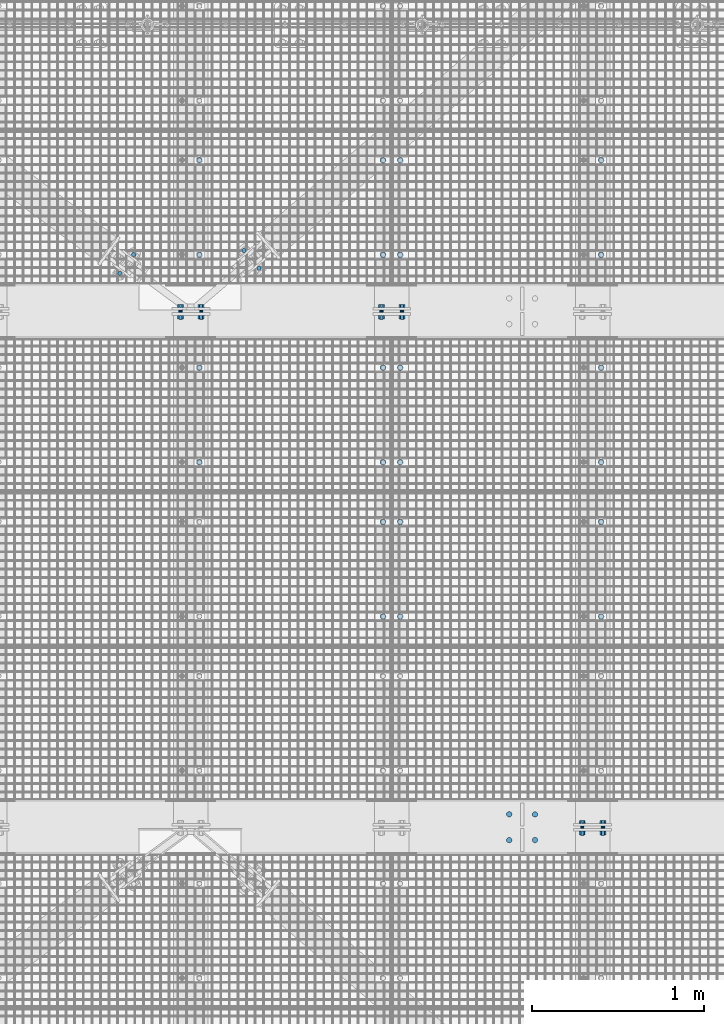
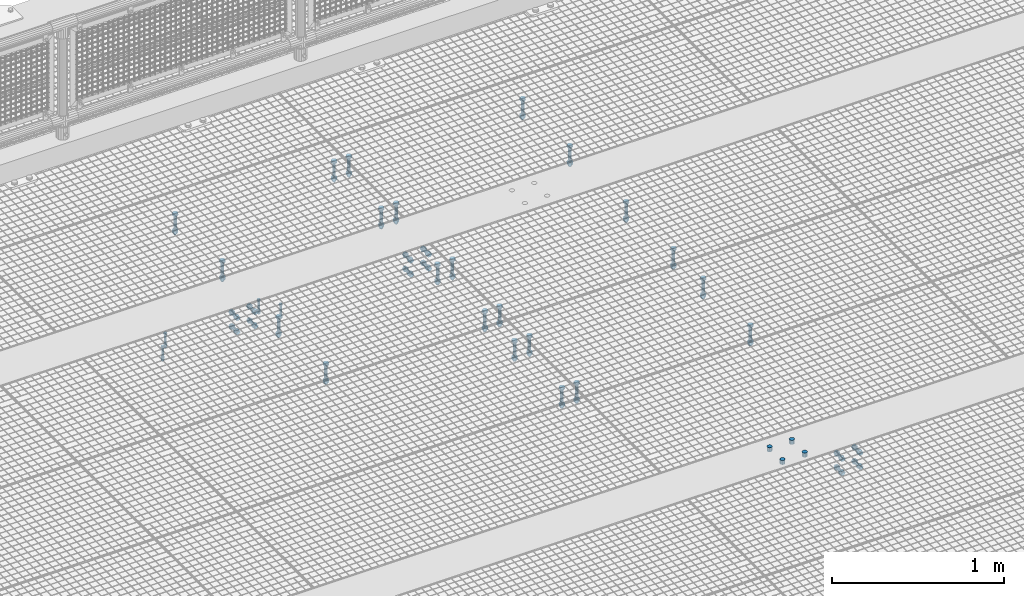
# One storey, part 15 of 1530: 17 mechanical fasteners.
"""IFC2X3 building model written with IfcOpenShell, lengths in millimetres."""

from ifc_helpers import new_model, si_unit, frame, origin_with_axes, place, context, subcontext, project, spatial, faceted_brep, source, transform, mapped, material, type_object, element, save


model = new_model("IFC2X3")

# Units and contexts
model_context = context("Model", 3, precision=1e-05, world=origin_with_axes())
body_context = subcontext(model_context, "Body", "Model", "MODEL_VIEW")
ifc_project = project(units=[si_unit("LENGTHUNIT", "METRE", prefix="MILLI"), si_unit("AREAUNIT", "SQUARE_METRE"), si_unit("VOLUMEUNIT", "CUBIC_METRE"), si_unit("MASSUNIT", "GRAM", prefix="KILO"), si_unit("TIMEUNIT", "SECOND"), si_unit("PLANEANGLEUNIT", "RADIAN"), si_unit("SOLIDANGLEUNIT", "STERADIAN"), si_unit("THERMODYNAMICTEMPERATUREUNIT", "DEGREE_CELSIUS"), si_unit("LUMINOUSINTENSITYUNIT", "LUMEN")], contexts=[model_context])

# Site, building, storey
site_placement = place(None, origin_with_axes())
site = spatial("IfcSite", under=ifc_project, at=site_placement, Name="Brattvåg", CompositionType="ELEMENT")
building_placement = place(site_placement, origin_with_axes())
building = spatial("IfcBuilding", under=site, at=building_placement, Name="Undefined", CompositionType="ELEMENT")
storey_placement = place(building_placement, origin_with_axes())
storey = spatial("IfcBuildingStorey", under=building, at=storey_placement, Name="Undefined", CompositionType="ELEMENT", Elevation=0.0)

# Mechanical fasteners
ifc_material = material(Name="8")
mechanical_fastener_type = type_object("IfcMechanicalFastenerType", Name="Bolt assembly")
shared_shape_1 = source(origin_with_axes(), body_context, "Body", "Brep", [
    faceted_brep([(10.3923048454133, -9.99999999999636, 0.0), (5.19615242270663, -9.99999999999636, 9.0), (-5.19615242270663, -9.99999999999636, 9.0), (-10.3923048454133, -9.99999999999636, 1.27269028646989e-15), (-5.19615242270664, -9.99999999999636, -9.0), (5.19615242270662, -9.99999999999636, -9.0), (5.19615242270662, -2.49999999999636, -9.0), (-5.19615242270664, -2.49999999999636, -9.0), (-10.3923048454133, -2.49999999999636, 1.27269028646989e-15), (-5.19615242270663, -2.49999999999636, 9.0), (5.19615242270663, -2.49999999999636, 9.0), (10.3923048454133, -2.49999999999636, 0.0), (6.0, -2.49999999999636, 0.0), (5.19615242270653, -2.49999999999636, 3.00000000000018), (2.99999999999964, -2.49999999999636, 5.19615242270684), (-6.21801588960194e-13, -2.49999999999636, 6.0), (-3.00000000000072, -2.49999999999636, 5.19615242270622), (-5.19615242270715, -2.49999999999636, 2.9999999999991), (-6.0, -2.49999999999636, -1.24360317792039e-12), (-5.19615242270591, -2.49999999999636, -3.00000000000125), (-2.99999999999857, -2.49999999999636, -5.19615242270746), (1.85874342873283e-12, -2.49999999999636, -6.0), (3.00000000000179, -2.49999999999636, -5.1961524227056), (5.19615242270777, -2.49999999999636, -2.99999999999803), (5.19615242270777, 97.4999999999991, -2.99999999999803), (3.00000000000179, 97.4999999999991, -5.1961524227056), (1.85874342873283e-12, 97.4999999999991, -6.0), (-2.99999999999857, 97.4999999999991, -5.19615242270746), (-5.19615242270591, 97.4999999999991, -3.00000000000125), (-6.0, 97.4999999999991, -1.24360317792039e-12), (-5.19615242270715, 97.4999999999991, 2.9999999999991), (-3.00000000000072, 97.4999999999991, 5.19615242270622), (-6.21801588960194e-13, 97.4999999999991, 6.0), (2.99999999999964, 97.4999999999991, 5.19615242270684), (5.19615242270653, 97.4999999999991, 3.00000000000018), (6.0, 97.4999999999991, 0.0), (12.0, -2.49999999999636, 0.0), (10.3923048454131, -2.49999999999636, 6.00000000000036), (5.99999999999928, -2.49999999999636, 10.3923048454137), (-1.24360317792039e-12, -2.49999999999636, 12.0), (-6.00000000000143, -2.49999999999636, 10.3923048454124), (-10.3923048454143, -2.49999999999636, 5.99999999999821), (-12.0, -2.49999999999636, -2.48720635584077e-12), (-10.3923048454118, -2.49999999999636, -6.00000000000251), (-5.99999999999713, -2.49999999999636, -10.3923048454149), (3.71748685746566e-12, -2.49999999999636, -12.0), (6.00000000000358, -2.49999999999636, -10.3923048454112), (10.3923048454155, -2.49999999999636, -5.99999999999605), (10.3923048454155, 3.63797880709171e-12, -5.99999999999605), (6.00000000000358, 3.63797880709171e-12, -10.3923048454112), (3.71748685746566e-12, 3.63797880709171e-12, -12.0), (-5.99999999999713, 3.63797880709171e-12, -10.3923048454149), (-10.3923048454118, 3.63797880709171e-12, -6.00000000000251), (-12.0, 3.63797880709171e-12, -2.48720635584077e-12), (-10.3923048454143, 3.63797880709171e-12, 5.99999999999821), (-6.00000000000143, 3.63797880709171e-12, 10.3923048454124), (-1.24360317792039e-12, 3.63797880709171e-12, 12.0), (5.99999999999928, 3.63797880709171e-12, 10.3923048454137), (10.3923048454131, 3.63797880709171e-12, 6.00000000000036), (12.0, 3.63797880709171e-12, 0.0), (12.0, 69.9999999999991, 0.0), (10.3923048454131, 69.9999999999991, 6.00000000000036), (5.99999999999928, 69.9999999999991, 10.3923048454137), (-1.24360317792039e-12, 69.9999999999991, 12.0), (-6.00000000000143, 69.9999999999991, 10.3923048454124), (-10.3923048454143, 69.9999999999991, 5.99999999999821), (-12.0, 69.9999999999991, -2.48720635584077e-12), (-10.3923048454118, 69.9999999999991, -6.00000000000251), (-5.99999999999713, 69.9999999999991, -10.3923048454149), (3.71748685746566e-12, 69.9999999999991, -12.0), (6.00000000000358, 69.9999999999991, -10.3923048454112), (10.3923048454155, 69.9999999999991, -5.99999999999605), (10.3923048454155, 72.4999999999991, -5.99999999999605), (6.00000000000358, 72.4999999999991, -10.3923048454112), (3.71748685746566e-12, 72.4999999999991, -12.0), (-5.99999999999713, 72.4999999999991, -10.3923048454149), (-10.3923048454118, 72.4999999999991, -6.00000000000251), (-12.0, 72.4999999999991, -2.48720635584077e-12), (-10.3923048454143, 72.4999999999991, 5.99999999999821), (-6.00000000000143, 72.4999999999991, 10.3923048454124), (-1.24360317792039e-12, 72.4999999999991, 12.0), (5.99999999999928, 72.4999999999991, 10.3923048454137), (10.3923048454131, 72.4999999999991, 6.00000000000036), (12.0, 72.4999999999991, 0.0), (10.3923048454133, 72.4999999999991, 0.0), (5.19615242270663, 72.4999999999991, 9.0), (-5.19615242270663, 72.4999999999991, 9.0), (-10.3923048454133, 72.4999999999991, 1.27269028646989e-15), (-5.19615242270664, 72.4999999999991, -9.0), (5.19615242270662, 72.4999999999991, -9.0), (5.19615242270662, 83.300000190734, -9.0), (-5.19615242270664, 83.300000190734, -9.0), (-10.3923048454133, 83.300000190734, 1.27269028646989e-15), (-5.19615242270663, 83.300000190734, 9.0), (5.19615242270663, 83.300000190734, 9.0), (10.3923048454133, 83.300000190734, 0.0), (9.0, 83.300000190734, 5.19615242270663), (6.36345143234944e-16, 83.300000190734, 10.3923048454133), (-9.0, 83.300000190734, 5.19615242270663), (-9.0, 83.300000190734, -5.19615242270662), (-1.11392563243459e-14, 83.300000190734, -10.3923048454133), (8.99999999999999, 83.300000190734, -5.19615242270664), (8.99999999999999, 94.1000003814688, -5.19615242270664), (-1.11392563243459e-14, 94.1000003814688, -10.3923048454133), (-9.0, 94.1000003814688, -5.19615242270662), (-9.0, 94.1000003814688, 5.19615242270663), (6.36345143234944e-16, 94.1000003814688, 10.3923048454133), (9.0, 94.1000003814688, 5.19615242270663)], [[[0, 1, 2, 3, 4, 5]], [[6, 7, 8, 9, 10, 11]], [[0, 11, 10, 1]], [[1, 10, 9, 2]], [[2, 9, 8, 3]], [[3, 8, 7, 4]], [[4, 7, 6, 5]], [[5, 6, 11, 0]], [[12, 13, 14, 15, 16, 17, 18, 19, 20, 21, 22, 23]], [[24, 25, 26, 27, 28, 29, 30, 31, 32, 33, 34, 35]], [[12, 35, 34, 13]], [[13, 34, 33, 14]], [[14, 33, 32, 15]], [[15, 32, 31, 16]], [[16, 31, 30, 17]], [[17, 30, 29, 18]], [[18, 29, 28, 19]], [[19, 28, 27, 20]], [[20, 27, 26, 21]], [[21, 26, 25, 22]], [[22, 25, 24, 23]], [[23, 24, 35, 12]], [[36, 37, 38, 39, 40, 41, 42, 43, 44, 45, 46, 47]], [[48, 49, 50, 51, 52, 53, 54, 55, 56, 57, 58, 59]], [[36, 59, 58, 37]], [[37, 58, 57, 38]], [[38, 57, 56, 39]], [[39, 56, 55, 40]], [[40, 55, 54, 41]], [[41, 54, 53, 42]], [[42, 53, 52, 43]], [[43, 52, 51, 44]], [[44, 51, 50, 45]], [[45, 50, 49, 46]], [[46, 49, 48, 47]], [[47, 48, 59, 36]], [[60, 61, 62, 63, 64, 65, 66, 67, 68, 69, 70, 71]], [[72, 73, 74, 75, 76, 77, 78, 79, 80, 81, 82, 83]], [[60, 83, 82, 61]], [[61, 82, 81, 62]], [[62, 81, 80, 63]], [[63, 80, 79, 64]], [[64, 79, 78, 65]], [[65, 78, 77, 66]], [[66, 77, 76, 67]], [[67, 76, 75, 68]], [[68, 75, 74, 69]], [[69, 74, 73, 70]], [[70, 73, 72, 71]], [[71, 72, 83, 60]], [[84, 85, 86, 87, 88, 89]], [[90, 91, 92, 93, 94, 95]], [[84, 95, 94, 85]], [[85, 94, 93, 86]], [[86, 93, 92, 87]], [[87, 92, 91, 88]], [[88, 91, 90, 89]], [[89, 90, 95, 84]], [[96, 97, 98, 99, 100, 101]], [[102, 103, 104, 105, 106, 107]], [[96, 107, 106, 97]], [[97, 106, 105, 98]], [[98, 105, 104, 99]], [[99, 104, 103, 100]], [[100, 103, 102, 101]], [[101, 102, 107, 96]]]),
    faceted_brep([(7.0, -9.09494701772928e-13, 0.0), (6.06217782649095, -9.09494701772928e-13, 3.50000000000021), (3.49999999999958, -9.09494701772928e-13, 6.06217782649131), (-7.25435187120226e-13, -9.09494701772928e-13, 7.0), (-3.50000000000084, -9.09494701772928e-13, 6.06217782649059), (-6.06217782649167, -9.09494701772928e-13, 3.49999999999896), (-7.0, -9.09494701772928e-13, -1.45087037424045e-12), (-6.06217782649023, -9.09494701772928e-13, -3.50000000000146), (-3.49999999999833, -9.09494701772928e-13, -6.06217782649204), (2.1685340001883e-12, -9.09494701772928e-13, -7.0), (3.50000000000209, -9.09494701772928e-13, -6.06217782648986), (6.0621778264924, -9.09494701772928e-13, -3.4999999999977), (6.0621778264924, 70.0999999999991, -3.4999999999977), (3.50000000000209, 70.0999999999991, -6.06217782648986), (2.1685340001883e-12, 70.0999999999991, -7.0), (-3.49999999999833, 70.0999999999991, -6.06217782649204), (-6.06217782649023, 70.0999999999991, -3.50000000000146), (-7.0, 70.0999999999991, -1.45087037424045e-12), (-6.06217782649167, 70.0999999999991, 3.49999999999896), (-3.50000000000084, 70.0999999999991, 6.06217782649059), (-7.25435187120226e-13, 70.0999999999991, 7.0), (3.49999999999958, 70.0999999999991, 6.06217782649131), (6.06217782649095, 70.0999999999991, 3.50000000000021), (7.0, 70.0999999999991, 0.0)], [[[0, 1, 2, 3, 4, 5, 6, 7, 8, 9, 10, 11]], [[12, 13, 14, 15, 16, 17, 18, 19, 20, 21, 22, 23]], [[0, 23, 22, 1]], [[1, 22, 21, 2]], [[2, 21, 20, 3]], [[3, 20, 19, 4]], [[4, 19, 18, 5]], [[5, 18, 17, 6]], [[6, 17, 16, 7]], [[7, 16, 15, 8]], [[8, 15, 14, 9]], [[9, 14, 13, 10]], [[10, 13, 12, 11]], [[11, 12, 23, 0]]]),
])
for number, where, z_axis, x_axis, name in (
    (1, (4470.68059093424, 6250.12367950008, -410.000000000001), (-0.759623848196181, -0.65036267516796, 0.0), (-0.650362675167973, 0.75962384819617, 0.0), "Bolt assembly"),
    (2, (3741.07740415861, 6330.27418405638, -410.000000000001), (0.804538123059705, -0.593901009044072, 0.0), (-0.593901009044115, -0.804538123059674, 0.0), "Bolt assembly"),
):
    element("IfcMechanicalFastener", number, at=place(storey_placement, frame(where, z_axis=z_axis, x_axis=x_axis)), inside=storey, type_object=mechanical_fastener_type, material=ifc_material, Name=name, NominalDiameter=12.0, NominalLength=100.0, context=body_context, shape_type="MappedRepresentation", body=[
        mapped(shared_shape_1, transform((0.0, 0.0, 0.0))),
        mapped(shared_shape_1, transform((136.0, 0.0, 0.0))),
    ])
shared_shape_2 = source(origin_with_axes(), body_context, "Body", "Brep", [
    faceted_brep([(17.3205080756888, -10.5, 0.0), (8.66025403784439, -10.5, 15.0), (-8.66025403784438, -10.5, 15.0), (-17.3205080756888, -10.5, 2.12115047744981e-15), (-8.66025403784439, -10.5, -15.0), (8.66025403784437, -10.5, -15.0), (8.66025403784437, 2.0, -15.0), (-8.66025403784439, 2.0, -15.0), (-17.3205080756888, 2.0, 2.12115047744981e-15), (-8.66025403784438, 2.0, 15.0), (8.66025403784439, 2.0, 15.0), (17.3205080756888, 2.0, 0.0), (10.0, 2.0, 0.0), (8.66025403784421, 2.0, 5.0000000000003), (4.9999999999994, 2.0, 8.66025403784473), (-1.03633598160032e-12, 2.0, 10.0), (-5.00000000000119, 2.0, 8.6602540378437), (-8.66025403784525, 2.0, 4.99999999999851), (-10.0, 2.0, -2.07267196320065e-12), (-8.66025403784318, 2.0, -5.00000000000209), (-4.99999999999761, 2.0, -8.66025403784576), (3.09790571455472e-12, 2.0, -10.0), (5.00000000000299, 2.0, -8.66025403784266), (8.66025403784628, 2.0, -4.99999999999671), (8.66025403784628, 142.0, -4.99999999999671), (5.00000000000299, 142.0, -8.66025403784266), (3.09790571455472e-12, 142.0, -10.0), (-4.99999999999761, 142.0, -8.66025403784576), (-8.66025403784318, 142.0, -5.00000000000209), (-10.0, 142.0, -2.07267196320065e-12), (-8.66025403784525, 142.0, 4.99999999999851), (-5.00000000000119, 142.0, 8.6602540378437), (-1.03633598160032e-12, 142.0, 10.0), (4.9999999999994, 142.0, 8.66025403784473), (8.66025403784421, 142.0, 5.0000000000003), (10.0, 142.0, 0.0), (18.5, 2.0, 0.0), (16.0214699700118, 2.0, 9.25000000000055), (9.2499999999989, 2.0, 16.0214699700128), (-1.9172215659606e-12, 2.0, 18.5), (-9.25000000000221, 2.0, 16.0214699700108), (-16.0214699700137, 2.0, 9.24999999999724), (-18.5, 2.0, -3.83444313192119e-12), (-16.0214699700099, 2.0, -9.25000000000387), (-9.24999999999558, 2.0, -16.0214699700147), (5.73112557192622e-12, 2.0, -18.5), (9.25000000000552, 2.0, -16.0214699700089), (16.0214699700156, 2.0, -9.24999999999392), (16.0214699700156, 5.0, -9.24999999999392), (9.25000000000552, 5.0, -16.0214699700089), (5.73112557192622e-12, 5.0, -18.5), (-9.24999999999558, 5.0, -16.0214699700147), (-16.0214699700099, 5.0, -9.25000000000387), (-18.5, 5.0, -3.83444313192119e-12), (-16.0214699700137, 5.0, 9.24999999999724), (-9.25000000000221, 5.0, 16.0214699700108), (-1.9172215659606e-12, 5.0, 18.5), (9.2499999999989, 5.0, 16.0214699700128), (16.0214699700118, 5.0, 9.25000000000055), (18.5, 5.0, 0.0), (18.5, 109.998931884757, 0.0), (16.0214699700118, 109.998931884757, 9.25000000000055), (9.2499999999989, 109.998931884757, 16.0214699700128), (-1.9172215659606e-12, 109.998931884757, 18.5), (-9.25000000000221, 109.998931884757, 16.0214699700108), (-16.0214699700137, 109.998931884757, 9.24999999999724), (-18.5, 109.998931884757, -3.83444313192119e-12), (-16.0214699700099, 109.998931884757, -9.25000000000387), (-9.24999999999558, 109.998931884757, -16.0214699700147), (5.73112557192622e-12, 109.998931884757, -18.5), (9.25000000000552, 109.998931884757, -16.0214699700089), (16.0214699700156, 109.998931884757, -9.24999999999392), (16.0214699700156, 112.998931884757, -9.24999999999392), (9.25000000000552, 112.998931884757, -16.0214699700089), (5.73112557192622e-12, 112.998931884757, -18.5), (-9.24999999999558, 112.998931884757, -16.0214699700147), (-16.0214699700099, 112.998931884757, -9.25000000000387), (-18.5, 112.998931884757, -3.83444313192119e-12), (-16.0214699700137, 112.998931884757, 9.24999999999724), (-9.25000000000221, 112.998931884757, 16.0214699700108), (-1.9172215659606e-12, 112.998931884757, 18.5), (9.2499999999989, 112.998931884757, 16.0214699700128), (16.0214699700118, 112.998931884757, 9.25000000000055), (18.5, 112.998931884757, 0.0), (17.3205080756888, 112.998931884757, 0.0), (8.66025403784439, 112.998931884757, 15.0), (-8.66025403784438, 112.998931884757, 15.0), (-17.3205080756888, 112.998931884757, 2.12115047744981e-15), (-8.66025403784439, 112.998931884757, -15.0), (8.66025403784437, 112.998931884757, -15.0), (8.66025403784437, 130.998931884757, -15.0), (-8.66025403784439, 130.998931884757, -15.0), (-17.3205080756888, 130.998931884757, 2.12115047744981e-15), (-8.66025403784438, 130.998931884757, 15.0), (8.66025403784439, 130.998931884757, 15.0), (17.3205080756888, 130.998931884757, 0.0)], [[[0, 1, 2, 3, 4, 5]], [[6, 7, 8, 9, 10, 11]], [[0, 11, 10, 1]], [[1, 10, 9, 2]], [[2, 9, 8, 3]], [[3, 8, 7, 4]], [[4, 7, 6, 5]], [[5, 6, 11, 0]], [[12, 13, 14, 15, 16, 17, 18, 19, 20, 21, 22, 23]], [[24, 25, 26, 27, 28, 29, 30, 31, 32, 33, 34, 35]], [[12, 35, 34, 13]], [[13, 34, 33, 14]], [[14, 33, 32, 15]], [[15, 32, 31, 16]], [[16, 31, 30, 17]], [[17, 30, 29, 18]], [[18, 29, 28, 19]], [[19, 28, 27, 20]], [[20, 27, 26, 21]], [[21, 26, 25, 22]], [[22, 25, 24, 23]], [[23, 24, 35, 12]], [[36, 37, 38, 39, 40, 41, 42, 43, 44, 45, 46, 47]], [[48, 49, 50, 51, 52, 53, 54, 55, 56, 57, 58, 59]], [[36, 59, 58, 37]], [[37, 58, 57, 38]], [[38, 57, 56, 39]], [[39, 56, 55, 40]], [[40, 55, 54, 41]], [[41, 54, 53, 42]], [[42, 53, 52, 43]], [[43, 52, 51, 44]], [[44, 51, 50, 45]], [[45, 50, 49, 46]], [[46, 49, 48, 47]], [[47, 48, 59, 36]], [[60, 61, 62, 63, 64, 65, 66, 67, 68, 69, 70, 71]], [[72, 73, 74, 75, 76, 77, 78, 79, 80, 81, 82, 83]], [[60, 83, 82, 61]], [[61, 82, 81, 62]], [[62, 81, 80, 63]], [[63, 80, 79, 64]], [[64, 79, 78, 65]], [[65, 78, 77, 66]], [[66, 77, 76, 67]], [[67, 76, 75, 68]], [[68, 75, 74, 69]], [[69, 74, 73, 70]], [[70, 73, 72, 71]], [[71, 72, 83, 60]], [[84, 85, 86, 87, 88, 89]], [[90, 91, 92, 93, 94, 95]], [[84, 95, 94, 85]], [[85, 94, 93, 86]], [[86, 93, 92, 87]], [[87, 92, 91, 88]], [[88, 91, 90, 89]], [[89, 90, 95, 84]]]),
])
for number, where, z_axis, x_axis, name in (
    (3, (6460.01192543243, 6327.99, -25.0), (-1.0, 1.99999855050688e-09, 0.0), (0.0, 1.0, 0.0), "Bolt assembly"),
    (4, (5292.00477935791, 6327.91931152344, -25.0), (-1.0, 1.99999855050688e-09, 0.0), (0.0, 1.0, 0.0), "Bolt assembly"),
    (5, (5192.01487731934, 6327.9204864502, -25.0), (-1.0, 1.99999855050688e-09, 0.0), (0.0, 1.0, 0.0), "Bolt assembly"),
    (6, (4124.01192543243, 6327.99, -25.0), (-1.0, 1.99999855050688e-09, 0.0), (0.0, 1.0, 0.0), "Bolt assembly"),
    (7, (5292.00477935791, 5121.91931152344, -25.0), (-1.0, 1.99999855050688e-09, 0.0), (0.0, 1.0, 0.0), "Bolt assembly"),
    (8, (5292.00477935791, 4224.91931152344, -25.0), (-1.0, 1.99999855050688e-09, 0.0), (0.0, 1.0, 0.0), "Bolt assembly"),
    (9, (6460.01192543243, 5121.99, -25.0), (-1.0, 1.99999855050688e-09, 0.0), (0.0, 1.0, 0.0), "Bolt assembly"),
    (10, (5192.01487731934, 5121.9204864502, -25.0), (-1.0, 1.99999855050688e-09, 0.0), (0.0, 1.0, 0.0), "Bolt assembly"),
    (11, (4124.01192543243, 5121.99, -25.0), (-1.0, 1.99999855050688e-09, 0.0), (0.0, 1.0, 0.0), "Bolt assembly"),
    (12, (6460.01192543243, 4224.99, -25.0), (-1.0, 1.99999855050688e-09, 0.0), (0.0, 1.0, 0.0), "Bolt assembly"),
    (13, (5192.01487731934, 4224.9204864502, -25.0), (-1.0, 1.99999855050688e-09, 0.0), (0.0, 1.0, 0.0), "Bolt assembly"),
):
    element("IfcMechanicalFastener", number, at=place(storey_placement, frame(where, z_axis=z_axis, x_axis=x_axis)), inside=storey, type_object=mechanical_fastener_type, material=ifc_material, Name=name, NominalDiameter=20.0, NominalLength=140.0, context=body_context, shape_type="MappedRepresentation", body=[
        mapped(shared_shape_2, transform((0.0, 0.0, 0.0))),
        mapped(shared_shape_2, transform((549.999999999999, 0.0, 0.0))),
    ])
shared_shape_3 = source(origin_with_axes(), body_context, "Body", "Brep", [
    faceted_brep([(16.0, 0.0, 0.0), (13.8564064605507, 0.0, 8.00000000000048), (7.99999999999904, 0.0, 13.8564064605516), (-1.65813757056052e-12, 0.0, 16.0), (-8.00000000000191, 0.0, 13.8564064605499), (-13.8564064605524, 0.0, 7.99999999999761), (-16.0, 0.0, -3.31627514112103e-12), (-13.8564064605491, 0.0, -8.00000000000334), (-7.99999999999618, 0.0, -13.8564064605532), (4.95664914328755e-12, 0.0, -16.0), (8.00000000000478, 0.0, -13.8564064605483), (13.8564064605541, 0.0, -7.99999999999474), (13.8564064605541, 30.1, -7.99999999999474), (8.00000000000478, 30.1, -13.8564064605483), (4.95664914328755e-12, 30.1, -16.0), (-7.99999999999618, 30.1, -13.8564064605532), (-13.8564064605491, 30.1, -8.00000000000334), (-16.0, 30.1, -3.31627514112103e-12), (-13.8564064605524, 30.1, 7.99999999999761), (-8.00000000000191, 30.1, 13.8564064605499), (-1.65813757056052e-12, 30.1, 16.0), (7.99999999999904, 30.1, 13.8564064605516), (13.8564064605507, 30.1, 8.00000000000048), (16.0, 30.1, 0.0)], [[[0, 1, 2, 3, 4, 5, 6, 7, 8, 9, 10, 11]], [[12, 13, 14, 15, 16, 17, 18, 19, 20, 21, 22, 23]], [[0, 23, 22, 1]], [[1, 22, 21, 2]], [[2, 21, 20, 3]], [[3, 20, 19, 4]], [[4, 19, 18, 5]], [[5, 18, 17, 6]], [[6, 17, 16, 7]], [[7, 16, 15, 8]], [[8, 15, 14, 9]], [[9, 14, 13, 10]], [[10, 13, 12, 11]], [[11, 12, 23, 0]]]),
])
mechanical_fastener_placement = place(storey_placement, frame((6075.0, 3000.0, 0.0), z_axis=(0.0, -1.0, 0.0), x_axis=(-1.0, 1.99999855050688e-09, 0.0)))
element("IfcMechanicalFastener", 14, at=mechanical_fastener_placement, inside=storey, type_object=mechanical_fastener_type, material=ifc_material, Name="Bolt assembly", NominalDiameter=30.0, NominalLength=30.0, context=body_context, shape_type="MappedRepresentation", body=[
    mapped(shared_shape_3, transform((0.0, 0.0, -75.0))),
    mapped(shared_shape_3, transform((150.0, 0.0, -75.0))),
    mapped(shared_shape_3, transform((0.0, 0.0, 75.0))),
    mapped(shared_shape_3, transform((150.0, 0.0, 75.0))),
])
shared_shape_4 = source(origin_with_axes(), body_context, "Body", "Brep", [
    faceted_brep([(17.3205080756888, -15.5000000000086, 0.0), (8.66025403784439, -15.5000000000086, 15.0), (-8.66025403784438, -15.5000000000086, 15.0), (-17.3205080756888, -15.5000000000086, 2.12115047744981e-15), (-8.66025403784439, -15.5000000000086, -15.0), (8.66025403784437, -15.5000000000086, -15.0), (8.66025403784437, -3.00000000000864, -15.0), (-8.66025403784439, -3.00000000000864, -15.0), (-17.3205080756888, -3.00000000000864, 2.12115047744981e-15), (-8.66025403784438, -3.00000000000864, 15.0), (8.66025403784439, -3.00000000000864, 15.0), (17.3205080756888, -3.00000000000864, 0.0), (10.0, -3.00000000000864, 0.0), (8.66025403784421, -3.00000000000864, 5.0000000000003), (4.9999999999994, -3.00000000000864, 8.66025403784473), (-1.03633598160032e-12, -3.00000000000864, 10.0), (-5.00000000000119, -3.00000000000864, 8.6602540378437), (-8.66025403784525, -3.00000000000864, 4.99999999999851), (-10.0, -3.00000000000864, -2.07267196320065e-12), (-8.66025403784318, -3.00000000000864, -5.00000000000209), (-4.99999999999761, -3.00000000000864, -8.66025403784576), (3.09790571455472e-12, -3.00000000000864, -10.0), (5.00000000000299, -3.00000000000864, -8.66025403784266), (8.66025403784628, -3.00000000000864, -4.99999999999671), (8.66025403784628, 72.0, -4.99999999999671), (5.00000000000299, 72.0, -8.66025403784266), (3.09790571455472e-12, 72.0, -10.0), (-4.99999999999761, 72.0, -8.66025403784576), (-8.66025403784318, 72.0, -5.00000000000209), (-10.0, 72.0, -2.07267196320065e-12), (-8.66025403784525, 72.0, 4.99999999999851), (-5.00000000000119, 72.0, 8.6602540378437), (-1.03633598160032e-12, 72.0, 10.0), (4.9999999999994, 72.0, 8.66025403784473), (8.66025403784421, 72.0, 5.0000000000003), (10.0, 72.0, 0.0), (18.5, -3.00000000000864, 0.0), (16.0214699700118, -3.00000000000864, 9.25000000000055), (9.2499999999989, -3.00000000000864, 16.0214699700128), (-1.9172215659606e-12, -3.00000000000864, 18.5), (-9.25000000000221, -3.00000000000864, 16.0214699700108), (-16.0214699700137, -3.00000000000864, 9.24999999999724), (-18.5, -3.00000000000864, -3.83444313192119e-12), (-16.0214699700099, -3.00000000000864, -9.25000000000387), (-9.24999999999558, -3.00000000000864, -16.0214699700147), (5.73112557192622e-12, -3.00000000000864, -18.5), (9.25000000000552, -3.00000000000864, -16.0214699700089), (16.0214699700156, -3.00000000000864, -9.24999999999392), (16.0214699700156, -8.64019966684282e-12, -9.24999999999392), (9.25000000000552, -8.64019966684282e-12, -16.0214699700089), (5.73112557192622e-12, -8.64019966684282e-12, -18.5), (-9.24999999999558, -8.64019966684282e-12, -16.0214699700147), (-16.0214699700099, -8.64019966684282e-12, -9.25000000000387), (-18.5, -8.64019966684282e-12, -3.83444313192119e-12), (-16.0214699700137, -8.64019966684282e-12, 9.24999999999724), (-9.25000000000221, -8.64019966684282e-12, 16.0214699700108), (-1.9172215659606e-12, -8.64019966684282e-12, 18.5), (9.2499999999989, -8.64019966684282e-12, 16.0214699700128), (16.0214699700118, -8.64019966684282e-12, 9.25000000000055), (18.5, -8.64019966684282e-12, 0.0), (18.5, 46.000061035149, 0.0), (16.0214699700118, 46.000061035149, 9.25000000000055), (9.2499999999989, 46.000061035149, 16.0214699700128), (-1.9172215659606e-12, 46.000061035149, 18.5), (-9.25000000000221, 46.000061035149, 16.0214699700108), (-16.0214699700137, 46.000061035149, 9.24999999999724), (-18.5, 46.000061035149, -3.83444313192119e-12), (-16.0214699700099, 46.000061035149, -9.25000000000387), (-9.24999999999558, 46.000061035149, -16.0214699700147), (5.73112557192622e-12, 46.000061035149, -18.5), (9.25000000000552, 46.000061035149, -16.0214699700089), (16.0214699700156, 46.000061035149, -9.24999999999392), (16.0214699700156, 49.000061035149, -9.24999999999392), (9.25000000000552, 49.000061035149, -16.0214699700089), (5.73112557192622e-12, 49.000061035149, -18.5), (-9.24999999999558, 49.000061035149, -16.0214699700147), (-16.0214699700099, 49.000061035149, -9.25000000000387), (-18.5, 49.000061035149, -3.83444313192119e-12), (-16.0214699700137, 49.000061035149, 9.24999999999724), (-9.25000000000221, 49.000061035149, 16.0214699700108), (-1.9172215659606e-12, 49.000061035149, 18.5), (9.2499999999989, 49.000061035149, 16.0214699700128), (16.0214699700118, 49.000061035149, 9.25000000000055), (18.5, 49.000061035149, 0.0), (17.3205080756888, 49.000061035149, 0.0), (8.66025403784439, 49.000061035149, 15.0), (-8.66025403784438, 49.000061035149, 15.0), (-17.3205080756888, 49.000061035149, 2.12115047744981e-15), (-8.66025403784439, 49.000061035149, -15.0), (8.66025403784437, 49.000061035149, -15.0), (8.66025403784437, 67.000061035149, -15.0), (-8.66025403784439, 67.000061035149, -15.0), (-17.3205080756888, 67.000061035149, 2.12115047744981e-15), (-8.66025403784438, 67.000061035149, 15.0), (8.66025403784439, 67.000061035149, 15.0), (17.3205080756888, 67.000061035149, 0.0)], [[[0, 1, 2, 3, 4, 5]], [[6, 7, 8, 9, 10, 11]], [[0, 11, 10, 1]], [[1, 10, 9, 2]], [[2, 9, 8, 3]], [[3, 8, 7, 4]], [[4, 7, 6, 5]], [[5, 6, 11, 0]], [[12, 13, 14, 15, 16, 17, 18, 19, 20, 21, 22, 23]], [[24, 25, 26, 27, 28, 29, 30, 31, 32, 33, 34, 35]], [[12, 35, 34, 13]], [[13, 34, 33, 14]], [[14, 33, 32, 15]], [[15, 32, 31, 16]], [[16, 31, 30, 17]], [[17, 30, 29, 18]], [[18, 29, 28, 19]], [[19, 28, 27, 20]], [[20, 27, 26, 21]], [[21, 26, 25, 22]], [[22, 25, 24, 23]], [[23, 24, 35, 12]], [[36, 37, 38, 39, 40, 41, 42, 43, 44, 45, 46, 47]], [[48, 49, 50, 51, 52, 53, 54, 55, 56, 57, 58, 59]], [[36, 59, 58, 37]], [[37, 58, 57, 38]], [[38, 57, 56, 39]], [[39, 56, 55, 40]], [[40, 55, 54, 41]], [[41, 54, 53, 42]], [[42, 53, 52, 43]], [[43, 52, 51, 44]], [[44, 51, 50, 45]], [[45, 50, 49, 46]], [[46, 49, 48, 47]], [[47, 48, 59, 36]], [[60, 61, 62, 63, 64, 65, 66, 67, 68, 69, 70, 71]], [[72, 73, 74, 75, 76, 77, 78, 79, 80, 81, 82, 83]], [[60, 83, 82, 61]], [[61, 82, 81, 62]], [[62, 81, 80, 63]], [[63, 80, 79, 64]], [[64, 79, 78, 65]], [[65, 78, 77, 66]], [[66, 77, 76, 67]], [[67, 76, 75, 68]], [[68, 75, 74, 69]], [[69, 74, 73, 70]], [[70, 73, 72, 71]], [[71, 72, 83, 60]], [[84, 85, 86, 87, 88, 89]], [[90, 91, 92, 93, 94, 95]], [[84, 95, 94, 85]], [[85, 94, 93, 86]], [[86, 93, 92, 87]], [[87, 92, 91, 88]], [[88, 91, 90, 89]], [[89, 90, 95, 84]]]),
    faceted_brep([(11.0, 0.1, 0.0), (9.52627944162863, 0.1, 5.50000000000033), (5.49999999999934, 0.1, 9.5262794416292), (-1.13996957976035e-12, 0.1, 11.0), (-5.50000000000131, 0.1, 9.52627944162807), (-9.52627944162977, 0.1, 5.49999999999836), (-11.0, 0.1, -2.27993915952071e-12), (-9.5262794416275, 0.1, -5.5000000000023), (-5.49999999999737, 0.1, -9.52627944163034), (3.40769628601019e-12, 0.1, -11.0), (5.50000000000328, 0.1, -9.52627944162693), (9.52627944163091, 0.1, -5.49999999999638), (9.52627944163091, 15.1, -5.49999999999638), (5.50000000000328, 15.1, -9.52627944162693), (3.40769628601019e-12, 15.1, -11.0), (-5.49999999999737, 15.1, -9.52627944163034), (-9.5262794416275, 15.1, -5.5000000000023), (-11.0, 15.1, -2.27993915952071e-12), (-9.52627944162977, 15.1, 5.49999999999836), (-5.50000000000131, 15.1, 9.52627944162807), (-1.13996957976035e-12, 15.1, 11.0), (5.49999999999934, 15.1, 9.5262794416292), (9.52627944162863, 15.1, 5.50000000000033), (11.0, 15.1, 0.0), (11.0, 15.0015563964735, 0.0), (9.52627944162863, 15.0015563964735, 5.50000000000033), (5.49999999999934, 15.0015563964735, 9.5262794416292), (-1.13996957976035e-12, 15.0015563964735, 11.0), (-5.50000000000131, 15.0015563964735, 9.52627944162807), (-9.52627944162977, 15.0015563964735, 5.49999999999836), (-11.0, 15.0015563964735, -2.27993915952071e-12), (-9.5262794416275, 15.0015563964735, -5.5000000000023), (-5.49999999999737, 15.0015563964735, -9.52627944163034), (3.40769628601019e-12, 15.0015563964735, -11.0), (5.50000000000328, 15.0015563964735, -9.52627944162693), (9.52627944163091, 15.0015563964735, -5.49999999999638), (9.52627944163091, 31.0015563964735, -5.49999999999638), (5.50000000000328, 31.0015563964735, -9.52627944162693), (3.40769628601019e-12, 31.0015563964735, -11.0), (-5.49999999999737, 31.0015563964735, -9.52627944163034), (-9.5262794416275, 31.0015563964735, -5.5000000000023), (-11.0, 31.0015563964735, -2.27993915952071e-12), (-9.52627944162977, 31.0015563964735, 5.49999999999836), (-5.50000000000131, 31.0015563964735, 9.52627944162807), (-1.13996957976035e-12, 31.0015563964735, 11.0), (5.49999999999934, 31.0015563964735, 9.5262794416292), (9.52627944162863, 31.0015563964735, 5.50000000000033), (11.0, 31.0015563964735, 0.0), (11.0, 30.900061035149, 0.0), (9.52627944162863, 30.900061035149, 5.50000000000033), (5.49999999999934, 30.900061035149, 9.5262794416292), (-1.13996957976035e-12, 30.900061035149, 11.0), (-5.50000000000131, 30.900061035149, 9.52627944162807), (-9.52627944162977, 30.900061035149, 5.49999999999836), (-11.0, 30.900061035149, -2.27993915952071e-12), (-9.5262794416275, 30.900061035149, -5.5000000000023), (-5.49999999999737, 30.900061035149, -9.52627944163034), (3.40769628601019e-12, 30.900061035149, -11.0), (5.50000000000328, 30.900061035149, -9.52627944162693), (9.52627944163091, 30.900061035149, -5.49999999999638), (9.52627944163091, 46.000061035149, -5.49999999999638), (5.50000000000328, 46.000061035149, -9.52627944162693), (3.40769628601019e-12, 46.000061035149, -11.0), (-5.49999999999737, 46.000061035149, -9.52627944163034), (-9.5262794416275, 46.000061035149, -5.5000000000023), (-11.0, 46.000061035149, -2.27993915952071e-12), (-9.52627944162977, 46.000061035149, 5.49999999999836), (-5.50000000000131, 46.000061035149, 9.52627944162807), (-1.13996957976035e-12, 46.000061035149, 11.0), (5.49999999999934, 46.000061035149, 9.5262794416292), (9.52627944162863, 46.000061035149, 5.50000000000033), (11.0, 46.000061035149, 0.0)], [[[0, 1, 2, 3, 4, 5, 6, 7, 8, 9, 10, 11]], [[12, 13, 14, 15, 16, 17, 18, 19, 20, 21, 22, 23]], [[0, 23, 22, 1]], [[1, 22, 21, 2]], [[2, 21, 20, 3]], [[3, 20, 19, 4]], [[4, 19, 18, 5]], [[5, 18, 17, 6]], [[6, 17, 16, 7]], [[7, 16, 15, 8]], [[8, 15, 14, 9]], [[9, 14, 13, 10]], [[10, 13, 12, 11]], [[11, 12, 23, 0]], [[24, 25, 26, 27, 28, 29, 30, 31, 32, 33, 34, 35]], [[36, 37, 38, 39, 40, 41, 42, 43, 44, 45, 46, 47]], [[24, 47, 46, 25]], [[25, 46, 45, 26]], [[26, 45, 44, 27]], [[27, 44, 43, 28]], [[28, 43, 42, 29]], [[29, 42, 41, 30]], [[30, 41, 40, 31]], [[31, 40, 39, 32]], [[32, 39, 38, 33]], [[33, 38, 37, 34]], [[34, 37, 36, 35]], [[35, 36, 47, 24]], [[48, 49, 50, 51, 52, 53, 54, 55, 56, 57, 58, 59]], [[60, 61, 62, 63, 64, 65, 66, 67, 68, 69, 70, 71]], [[48, 71, 70, 49]], [[49, 70, 69, 50]], [[50, 69, 68, 51]], [[51, 68, 67, 52]], [[52, 67, 66, 53]], [[53, 66, 65, 54]], [[54, 65, 64, 55]], [[55, 64, 63, 56]], [[56, 63, 62, 57]], [[57, 62, 61, 58]], [[58, 61, 60, 59]], [[59, 60, 71, 48]]]),
])
for number, where, z_axis, x_axis, name in (
    (15, (4134.00196838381, 6023.00155639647, -219.998836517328), (0.0, 0.0, 1.0), (-1.0, 1.99999855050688e-09, 0.0), "Bolt assembly"),
    (16, (5302.00196838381, 6023.00155639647, -219.998836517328), (0.0, 0.0, 1.0), (-1.0, 1.99999855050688e-09, 0.0), "Bolt assembly"),
    (17, (6470.00196838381, 3023.00155639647, -219.998836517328), (0.0, 0.0, 1.0), (-1.0, 1.99999855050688e-09, 0.0), "Bolt assembly"),
):
    element("IfcMechanicalFastener", number, at=place(storey_placement, frame(where, z_axis=z_axis, x_axis=x_axis)), inside=storey, type_object=mechanical_fastener_type, material=ifc_material, Name=name, NominalDiameter=20.0, NominalLength=75.0, context=body_context, shape_type="MappedRepresentation", body=[
        mapped(shared_shape_4, transform((0.0, 0.0, -50.0))),
        mapped(shared_shape_4, transform((120.0, 0.0, -50.0))),
        mapped(shared_shape_4, transform((0.0, 0.0, 50.0))),
        mapped(shared_shape_4, transform((120.0, 0.0, 50.0))),
    ])

save(model, "model.ifc")
